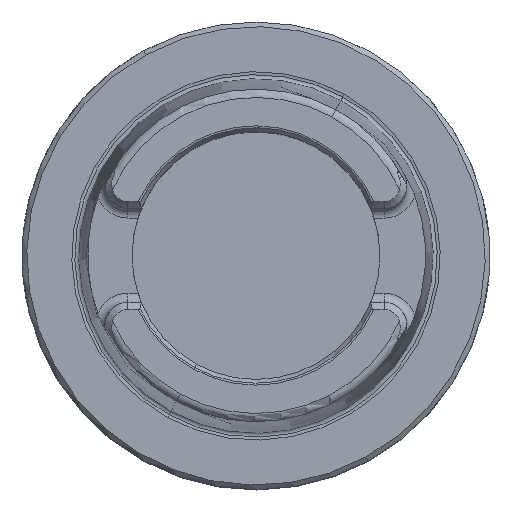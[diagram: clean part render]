
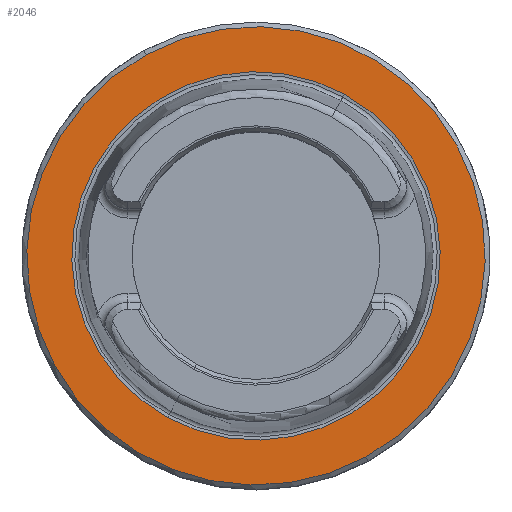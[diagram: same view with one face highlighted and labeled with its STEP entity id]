
A CAD part, top view. The second image highlights one B-rep face of the part: STEP entity #2046.
In plain terms, the highlighted planar face has unit normal (0, 0, 1).
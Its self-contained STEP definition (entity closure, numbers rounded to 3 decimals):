
#1983=AXIS2_PLACEMENT_3D('Circle Axis2P3D',#1981,#1982,$) ;
#2009=AXIS2_PLACEMENT_3D('Circle Axis2P3D',#2007,#2008,$) ;
#2022=AXIS2_PLACEMENT_3D('Plane Axis2P3D',#2019,#2020,#2021) ;
#2026=AXIS2_PLACEMENT_3D('Circle Axis2P3D',#2024,#2025,$) ;
#2035=AXIS2_PLACEMENT_3D('Circle Axis2P3D',#2033,#2034,$) ;
#1981=CARTESIAN_POINT('Axis2P3D Location',(0.,0.,0.)) ;
#1985=CARTESIAN_POINT('Vertex',(18.88,34.56,0.)) ;
#1987=CARTESIAN_POINT('Vertex',(-18.88,-34.56,0.)) ;
#2007=CARTESIAN_POINT('Axis2P3D Location',(0.,0.,0.)) ;
#2019=CARTESIAN_POINT('Axis2P3D Location',(0.,-38.285,0.)) ;
#2024=CARTESIAN_POINT('Axis2P3D Location',(0.,0.,0.)) ;
#2028=CARTESIAN_POINT('Vertex',(23.492,-43.002,0.)) ;
#2030=CARTESIAN_POINT('Vertex',(-23.492,43.002,0.)) ;
#2033=CARTESIAN_POINT('Axis2P3D Location',(0.,0.,0.)) ;
#1982=DIRECTION('Axis2P3D Direction',(0.,0.,1.)) ;
#2008=DIRECTION('Axis2P3D Direction',(0.,0.,1.)) ;
#2020=DIRECTION('Axis2P3D Direction',(0.,0.,-1.)) ;
#2021=DIRECTION('Axis2P3D XDirection',(-1.,0.,0.)) ;
#2025=DIRECTION('Axis2P3D Direction',(0.,0.,-1.)) ;
#2034=DIRECTION('Axis2P3D Direction',(0.,0.,-1.)) ;
#2039=ORIENTED_EDGE('',*,*,#2032,.F.) ;
#2040=ORIENTED_EDGE('',*,*,#2037,.F.) ;
#2043=ORIENTED_EDGE('',*,*,#1989,.T.) ;
#2044=ORIENTED_EDGE('',*,*,#2011,.T.) ;
#2045=FACE_BOUND('',#2042,.T.) ;
#2046=ADVANCED_FACE('NO_CUT',(#2041,#2045),#2023,.F.) ;
#1984=CIRCLE('generated circle',#1983,39.381) ;
#2010=CIRCLE('generated circle',#2009,39.381) ;
#2027=CIRCLE('generated circle',#2026,49.) ;
#2036=CIRCLE('generated circle',#2035,49.) ;
#1989=EDGE_CURVE('',#1986,#1988,#1984,.F.) ;
#2011=EDGE_CURVE('',#1988,#1986,#2010,.F.) ;
#2032=EDGE_CURVE('',#2029,#2031,#2027,.T.) ;
#2037=EDGE_CURVE('',#2031,#2029,#2036,.T.) ;
#2038=EDGE_LOOP('',(#2039,#2040)) ;
#2042=EDGE_LOOP('',(#2043,#2044)) ;
#2041=FACE_OUTER_BOUND('',#2038,.T.) ;
#2023=PLANE('',#2022) ;
#1986=VERTEX_POINT('',#1985) ;
#1988=VERTEX_POINT('',#1987) ;
#2029=VERTEX_POINT('',#2028) ;
#2031=VERTEX_POINT('',#2030) ;
